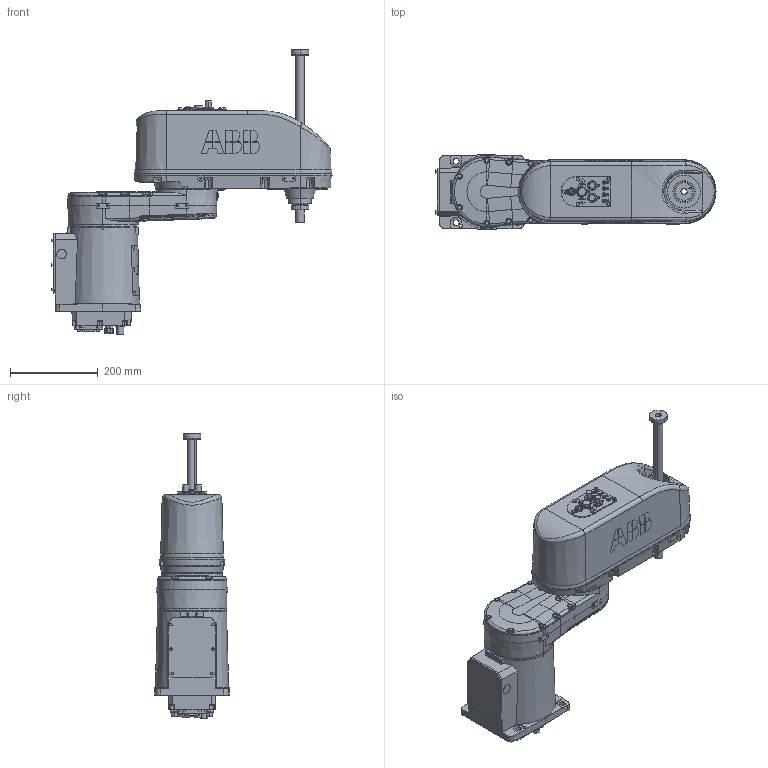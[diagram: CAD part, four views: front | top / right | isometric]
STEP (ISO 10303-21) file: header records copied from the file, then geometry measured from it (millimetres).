
FILE_DESCRIPTION (( 'STEP AP214' ), '1' );
FILE_NAME ('IRB920T_6kg-450-180-BTM_OmniCore_rev00_Assembly.step', '2021-08-23T03:23:46', ( '' ), ( '' ), 'SwSTEP 2.0', 'SolidWorks 2018', '' );
FILE_SCHEMA (( 'AUTOMOTIVE_DESIGN' ));
Length unit declared in the file: millimetre
Products named in the file (5): IRB920T_6kg-450-180-BTM_OmniCore_rev00_LINK0_CAD; IRB920T_6kg-450-180-BTM_OmniCore_rev00_LINK3_CAD; IRB920T_6kg-450-180-BTM_OmniCore_rev00_Assembly; IRB920T_6kg-450-180-BTM_OmniCore_rev00_LINK1_CAD; IRB920T_6kg-450-180-BTM_OmniCore_rev00_LINK2_CAD
Assembly tree (4 placements, depth 2):
  IRB920T_6kg-450-180-BTM_OmniCore_rev00_Assembly
    IRB920T_6kg-450-180-BTM_OmniCore_rev00_LINK0_CAD
    IRB920T_6kg-450-180-BTM_OmniCore_rev00_LINK1_CAD
    IRB920T_6kg-450-180-BTM_OmniCore_rev00_LINK2_CAD
    IRB920T_6kg-450-180-BTM_OmniCore_rev00_LINK3_CAD
Bounding box: 639 x 170 x 649.33 mm (x, y, z)
Volume: 18284287.4 mm3; surface area: 748039 mm2
Topology: 4 solids, 5 shells, 2252 faces, 5777 edges, 3745 vertices
Faces by surface type: plane 1205, bspline 404, cylinder 398, cone 231, torus 12, sphere 2
Entity records: 90299 total; most frequent: CARTESIAN_POINT 36914, ORIENTED_EDGE 11412, DIRECTION 8939, EDGE_CURVE 5706, VERTEX_POINT 3745, VECTOR 3363, LINE 3363, AXIS2_PLACEMENT_3D 2788
